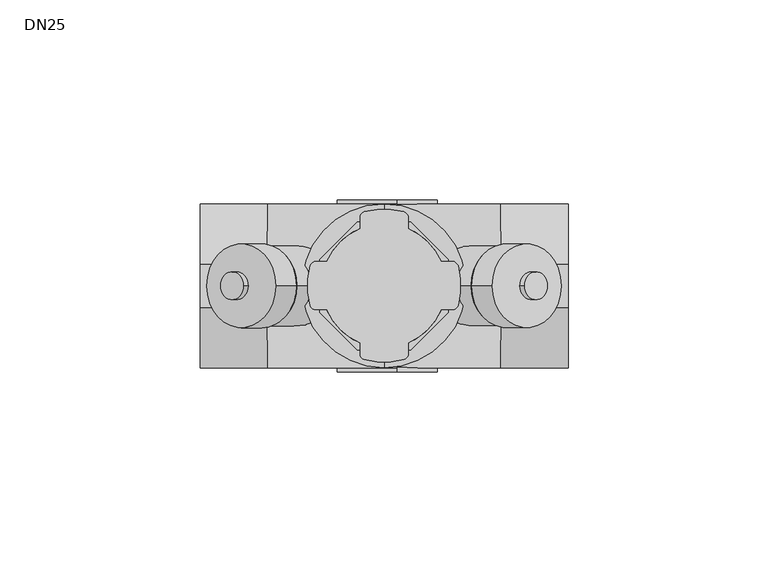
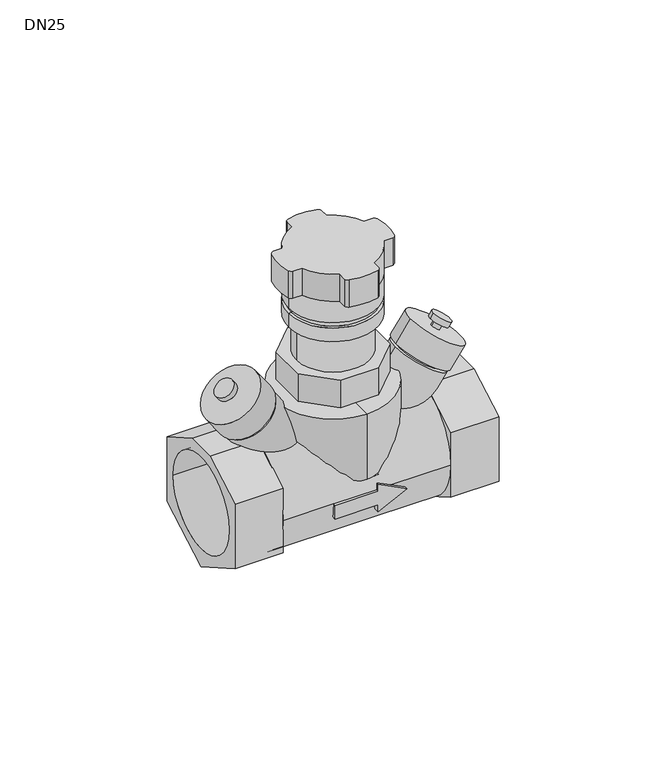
"""IFC4 building model written with IfcOpenShell, lengths in millimetres: valve geometry, 400_56_KOMF_VTZ : DN25."""

from ifc_helpers import new_model, si_unit, point, frame, frame_2d, origin, origin_2d, place, context, project, spatial, polyline, circle_curve, ellipse_curve, trimmed, segment, composite_curve, outline, extrude, source, transform, mapped, element, save
from ifc_brep_helpers import plane_surface, cylinder_surface, revolved_surface, advanced_brep


def dn25_933a6ecd(model_context):
    return source(origin(), model_context, "Body", "SolidModel", [
        advanced_brep(
        [(38.1614142, 0.0, 22.2961177), (21.7784319, 0.0, 33.7676054), (23.4167774, 0.0, 32.6204236), (36.5230687, 0.0, 23.4432996), (26.8246716, 0.0, 6.1055715), (10.4416893, 0.0, 17.5770591), (37.0966531, 0.0, 24.2624631), (23.9903618, 0.0, 33.4395871), (44.3067448, 0.0, 30.2008828), (27.1046544, 0.0, 42.2459162), (34.4768006, 0.0, 37.0838838), (36.9345986, 0.0, 35.3629152), (39.1445527, 0.0, 22.8285084), (21.9424623, 0.0, 34.8735418), (38.0817629, 0.0, 37.0012356), (35.623965, 0.0, 38.7222043), (40.867019, 0.0, 37.4924917), (35.132981, 0.0, 41.5075083), (39.719883, 0.0, 35.8542116), (33.985845, 0.0, 39.8692283)],
        [
            (0, 1, circle_curve(frame((29.969923, 0.0, 28.0318616), z_axis=(0.5735764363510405, 0.0, 0.8191520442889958), x_axis=(-0.8191520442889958, 0.0, 0.5735764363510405)), 9.9999642)),
            (1, 0, circle_curve(frame((29.969923, 0.0, 28.0318616), z_axis=(0.5735764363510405, 0.0, 0.8191520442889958), x_axis=(-0.8191520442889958, 0.0, 0.5735764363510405)), 9.9999642)),
            (2, 3, circle_curve(frame((29.969923, 0.0, 28.0318616), z_axis=(-0.5735764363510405, 0.0, -0.8191520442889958), x_axis=(-0.8191520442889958, 0.0, 0.5735764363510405)), 7.9999137)),
            (3, 2, circle_curve(frame((29.969923, 0.0, 28.0318616), z_axis=(-0.5735764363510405, 0.0, -0.8191520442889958), x_axis=(-0.8191520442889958, 0.0, 0.5735764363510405)), 7.9999137)),
            (4, 5, circle_curve(frame((18.6331805, 0.0, 11.8413153), z_axis=(-0.5735764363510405, 0.0, -0.8191520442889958), x_axis=(-0.8191520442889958, 0.0, 0.5735764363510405)), 9.9999642)),
            (5, 4, circle_curve(frame((18.6331805, 0.0, 11.8413153), z_axis=(-0.5735764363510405, 0.0, -0.8191520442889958), x_axis=(-0.8191520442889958, 0.0, 0.5735764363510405)), 9.9999642)),
            (1, 5),
            (4, 0),
            (6, 7, circle_curve(frame((30.5435075, 0.0, 28.8510251), z_axis=(-0.5735764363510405, 0.0, -0.8191520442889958), x_axis=(-0.8191520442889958, 0.0, 0.5735764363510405)), 7.9999137)),
            (7, 2),
            (3, 6),
            (7, 6, circle_curve(frame((30.5435075, 0.0, 28.8510251), z_axis=(-0.5735764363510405, 0.0, -0.8191520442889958), x_axis=(-0.8191520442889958, 0.0, 0.5735764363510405)), 7.9999137)),
            (8, 9, circle_curve(frame((35.7056996, 0.0, 36.2233995), z_axis=(0.5735764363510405, 0.0, 0.8191520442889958), x_axis=(-0.8191520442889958, 0.0, 0.5735764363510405)), 10.4999374)),
            (9, 8, circle_curve(frame((35.7056996, 0.0, 36.2233995), z_axis=(0.5735764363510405, 0.0, 0.8191520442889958), x_axis=(-0.8191520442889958, 0.0, 0.5735764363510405)), 10.4999374)),
            (10, 11, circle_curve(frame((35.7056996, 0.0, 36.2233995), z_axis=(-0.5735764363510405, 0.0, -0.8191520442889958), x_axis=(-0.8191520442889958, 0.0, 0.5735764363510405)), 1.5002086)),
            (11, 10, circle_curve(frame((35.7056996, 0.0, 36.2233995), z_axis=(-0.5735764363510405, 0.0, -0.8191520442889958), x_axis=(-0.8191520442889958, 0.0, 0.5735764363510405)), 1.5002086)),
            (12, 13, circle_curve(frame((30.5435075, 0.0, 28.8510251), z_axis=(-0.5735764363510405, 0.0, -0.8191520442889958), x_axis=(-0.8191520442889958, 0.0, 0.5735764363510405)), 10.4999374)),
            (13, 12, circle_curve(frame((30.5435075, 0.0, 28.8510251), z_axis=(-0.5735764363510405, 0.0, -0.8191520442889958), x_axis=(-0.8191520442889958, 0.0, 0.5735764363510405)), 10.4999374)),
            (9, 13),
            (12, 8),
            (14, 15, circle_curve(frame((36.852864, 0.0, 37.8617199), z_axis=(-0.5735764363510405, 0.0, -0.8191520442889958), x_axis=(-0.8191520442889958, 0.0, 0.5735764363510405)), 1.5002086)),
            (15, 10),
            (11, 14),
            (15, 14, circle_curve(frame((36.852864, 0.0, 37.8617199), z_axis=(-0.5735764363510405, 0.0, -0.8191520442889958), x_axis=(-0.8191520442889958, 0.0, 0.5735764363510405)), 1.5002086)),
            (16, 17, circle_curve(frame((38.0, 0.0, 39.5), z_axis=(0.5735764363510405, 0.0, 0.8191520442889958), x_axis=(-0.8191520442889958, 0.0, 0.5735764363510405)), 3.4999839)),
            (17, 16, circle_curve(frame((38.0, 0.0, 39.5), z_axis=(0.5735764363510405, 0.0, 0.8191520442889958), x_axis=(-0.8191520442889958, 0.0, 0.5735764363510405)), 3.4999839)),
            (18, 19, circle_curve(frame((36.852864, 0.0, 37.8617199), z_axis=(-0.5735764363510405, 0.0, -0.8191520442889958), x_axis=(-0.8191520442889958, 0.0, 0.5735764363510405)), 3.4999839)),
            (19, 18, circle_curve(frame((36.852864, 0.0, 37.8617199), z_axis=(-0.5735764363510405, 0.0, -0.8191520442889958), x_axis=(-0.8191520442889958, 0.0, 0.5735764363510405)), 3.4999839)),
            (17, 19),
            (18, 16),
        ],
        [
            plane_surface(frame((21.7784319, 0.0, 33.7676054), z_axis=(0.5735764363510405, 0.0, 0.8191520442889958), x_axis=(0.0, 1.0, 0.0))),
            plane_surface(frame((10.4416893, 0.0, 17.5770591), z_axis=(-0.5735764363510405, 0.0, -0.8191520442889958), x_axis=(0.0, -1.0, 0.0))),
            cylinder_surface(frame((18.6331805, 0.0, 11.8413153), z_axis=(0.5735764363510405, 0.0, 0.8191520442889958), x_axis=(-0.8191520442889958, 0.0, 0.5735764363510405)), 9.9999642),
            cylinder_surface(frame((21.939734, 0.0, 16.5635631), z_axis=(0.5735764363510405, 0.0, 0.8191520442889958), x_axis=(-0.8191520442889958, 0.0, 0.5735764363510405)), 7.9999137),
            plane_surface(frame((27.1046544, 0.0, 42.2459162), z_axis=(0.5735764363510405, 0.0, 0.8191520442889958), x_axis=(0.0, 1.0, 0.0))),
            plane_surface(frame((21.9424623, 0.0, 34.8735418), z_axis=(-0.5735764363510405, 0.0, -0.8191520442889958), x_axis=(0.0, -1.0, 0.0))),
            cylinder_surface(frame((30.5435075, 0.0, 28.8510251), z_axis=(0.5735764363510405, 0.0, 0.8191520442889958), x_axis=(-0.8191520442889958, 0.0, 0.5735764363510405)), 10.4999374),
            cylinder_surface(frame((35.7056996, 0.0, 36.2233995), z_axis=(0.5735764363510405, 0.0, 0.8191520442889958), x_axis=(-0.8191520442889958, 0.0, 0.5735764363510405)), 1.5002086),
            plane_surface(frame((35.132981, 0.0, 41.5075083), z_axis=(0.5735764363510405, 0.0, 0.8191520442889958), x_axis=(0.0, 1.0, 0.0))),
            plane_surface(frame((33.985845, 0.0, 39.8692283), z_axis=(-0.5735764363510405, 0.0, -0.8191520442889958), x_axis=(0.0, -1.0, 0.0))),
            cylinder_surface(frame((36.852864, 0.0, 37.8617199), z_axis=(0.5735764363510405, 0.0, 0.8191520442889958), x_axis=(-0.8191520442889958, 0.0, 0.5735764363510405)), 3.4999839),
        ],
        [
            (0, [[1, 2], [3, 4]]),
            (1, [[5, 6]]),
            (2, [[7, -5, 8, -2]]),
            (2, [[-8, -6, -7, -1]]),
            (3, [[9, 10, -4, 11]]),
            (3, [[-3, -10, 12, -11]]),
            (4, [[13, 14], [15, 16]]),
            (5, [[17, 18], [-12, -9]]),
            (6, [[19, -17, 20, -14]]),
            (6, [[-20, -18, -19, -13]]),
            (7, [[21, 22, -16, 23]]),
            (7, [[-15, -22, 24, -23]]),
            (8, [[25, 26]]),
            (9, [[27, 28], [-24, -21]]),
            (10, [[29, -27, 30, -26]]),
            (10, [[-30, -28, -29, -25]]),
        ],
    ),
        advanced_brep(
        [(-38.1614142, 0.0, 22.2961177), (-21.7784319, 0.0, 33.7676054), (-23.4167774, 0.0, 32.6204236), (-36.5230687, 0.0, 23.4432996), (-26.8246716, 0.0, 6.1055715), (-10.4416893, 0.0, 17.5770591), (-37.0966531, 0.0, 24.2624631), (-23.9903618, 0.0, 33.4395871), (-44.3067448, 0.0, 30.2008828), (-27.1046544, 0.0, 42.2459162), (-34.4768006, 0.0, 37.0838838), (-36.9345986, 0.0, 35.3629152), (-39.1445527, 0.0, 22.8285084), (-21.9424623, 0.0, 34.8735418), (-38.0817629, 0.0, 37.0012356), (-35.623965, 0.0, 38.7222043), (-40.867019, 0.0, 37.4924917), (-35.132981, 0.0, 41.5075083), (-39.719883, 0.0, 35.8542116), (-33.985845, 0.0, 39.8692283)],
        [
            (0, 1, circle_curve(frame((-29.969923, 0.0, 28.0318616), z_axis=(-0.5735764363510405, 0.0, 0.8191520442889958), x_axis=(0.8191520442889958, 0.0, 0.5735764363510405)), 9.9999642)),
            (1, 0, circle_curve(frame((-29.969923, 0.0, 28.0318616), z_axis=(-0.5735764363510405, 0.0, 0.8191520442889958), x_axis=(0.8191520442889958, 0.0, 0.5735764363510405)), 9.9999642)),
            (2, 3, circle_curve(frame((-29.969923, 0.0, 28.0318616), z_axis=(0.5735764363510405, 0.0, -0.8191520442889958), x_axis=(0.8191520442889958, 0.0, 0.5735764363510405)), 7.9999137)),
            (3, 2, circle_curve(frame((-29.969923, 0.0, 28.0318616), z_axis=(0.5735764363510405, 0.0, -0.8191520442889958), x_axis=(0.8191520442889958, 0.0, 0.5735764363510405)), 7.9999137)),
            (4, 5, circle_curve(frame((-18.6331805, 0.0, 11.8413153), z_axis=(0.5735764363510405, 0.0, -0.8191520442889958), x_axis=(0.8191520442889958, 0.0, 0.5735764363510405)), 9.9999642)),
            (5, 4, circle_curve(frame((-18.6331805, 0.0, 11.8413153), z_axis=(0.5735764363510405, 0.0, -0.8191520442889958), x_axis=(0.8191520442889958, 0.0, 0.5735764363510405)), 9.9999642)),
            (0, 4),
            (5, 1),
            (6, 3),
            (2, 7),
            (7, 6, circle_curve(frame((-30.5435075, 0.0, 28.8510251), z_axis=(0.5735764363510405, 0.0, -0.8191520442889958), x_axis=(0.8191520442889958, 0.0, 0.5735764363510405)), 7.9999137)),
            (6, 7, circle_curve(frame((-30.5435075, 0.0, 28.8510251), z_axis=(0.5735764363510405, 0.0, -0.8191520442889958), x_axis=(0.8191520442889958, 0.0, 0.5735764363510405)), 7.9999137)),
            (8, 9, circle_curve(frame((-35.7056996, 0.0, 36.2233995), z_axis=(-0.5735764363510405, 0.0, 0.8191520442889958), x_axis=(0.8191520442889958, 0.0, 0.5735764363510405)), 10.4999374)),
            (9, 8, circle_curve(frame((-35.7056996, 0.0, 36.2233995), z_axis=(-0.5735764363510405, 0.0, 0.8191520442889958), x_axis=(0.8191520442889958, 0.0, 0.5735764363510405)), 10.4999374)),
            (10, 11, circle_curve(frame((-35.7056996, 0.0, 36.2233995), z_axis=(0.5735764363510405, 0.0, -0.8191520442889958), x_axis=(0.8191520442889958, 0.0, 0.5735764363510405)), 1.5002086)),
            (11, 10, circle_curve(frame((-35.7056996, 0.0, 36.2233995), z_axis=(0.5735764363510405, 0.0, -0.8191520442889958), x_axis=(0.8191520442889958, 0.0, 0.5735764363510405)), 1.5002086)),
            (12, 13, circle_curve(frame((-30.5435075, 0.0, 28.8510251), z_axis=(0.5735764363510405, 0.0, -0.8191520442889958), x_axis=(0.8191520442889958, 0.0, 0.5735764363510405)), 10.4999374)),
            (13, 12, circle_curve(frame((-30.5435075, 0.0, 28.8510251), z_axis=(0.5735764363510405, 0.0, -0.8191520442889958), x_axis=(0.8191520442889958, 0.0, 0.5735764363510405)), 10.4999374)),
            (8, 12),
            (13, 9),
            (14, 11),
            (10, 15),
            (15, 14, circle_curve(frame((-36.852864, 0.0, 37.8617199), z_axis=(0.5735764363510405, 0.0, -0.8191520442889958), x_axis=(0.8191520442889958, 0.0, 0.5735764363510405)), 1.5002086)),
            (14, 15, circle_curve(frame((-36.852864, 0.0, 37.8617199), z_axis=(0.5735764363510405, 0.0, -0.8191520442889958), x_axis=(0.8191520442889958, 0.0, 0.5735764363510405)), 1.5002086)),
            (16, 17, circle_curve(frame((-38.0, 0.0, 39.5), z_axis=(-0.5735764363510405, 0.0, 0.8191520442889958), x_axis=(0.8191520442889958, 0.0, 0.5735764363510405)), 3.4999839)),
            (17, 16, circle_curve(frame((-38.0, 0.0, 39.5), z_axis=(-0.5735764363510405, 0.0, 0.8191520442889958), x_axis=(0.8191520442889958, 0.0, 0.5735764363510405)), 3.4999839)),
            (18, 19, circle_curve(frame((-36.852864, 0.0, 37.8617199), z_axis=(0.5735764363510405, 0.0, -0.8191520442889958), x_axis=(0.8191520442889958, 0.0, 0.5735764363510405)), 3.4999839)),
            (19, 18, circle_curve(frame((-36.852864, 0.0, 37.8617199), z_axis=(0.5735764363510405, 0.0, -0.8191520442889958), x_axis=(0.8191520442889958, 0.0, 0.5735764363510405)), 3.4999839)),
            (16, 18),
            (19, 17),
        ],
        [
            plane_surface(frame((-21.7784319, 0.0, 33.7676054), z_axis=(-0.5735764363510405, 0.0, 0.8191520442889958), x_axis=(0.0, 1.0, 0.0))),
            plane_surface(frame((-10.4416893, 0.0, 17.5770591), z_axis=(0.5735764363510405, 0.0, -0.8191520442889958), x_axis=(0.0, -1.0, 0.0))),
            cylinder_surface(frame((-18.6331805, 0.0, 11.8413153), z_axis=(-0.5735764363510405, 0.0, 0.8191520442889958), x_axis=(0.8191520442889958, 0.0, 0.5735764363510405)), 9.9999642),
            cylinder_surface(frame((-21.939734, 0.0, 16.5635631), z_axis=(-0.5735764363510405, 0.0, 0.8191520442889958), x_axis=(0.8191520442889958, 0.0, 0.5735764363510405)), 7.9999137),
            plane_surface(frame((-27.1046544, 0.0, 42.2459162), z_axis=(-0.5735764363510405, 0.0, 0.8191520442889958), x_axis=(0.0, 1.0, 0.0))),
            plane_surface(frame((-21.9424623, 0.0, 34.8735418), z_axis=(0.5735764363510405, 0.0, -0.8191520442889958), x_axis=(0.0, -1.0, 0.0))),
            cylinder_surface(frame((-30.5435075, 0.0, 28.8510251), z_axis=(-0.5735764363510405, 0.0, 0.8191520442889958), x_axis=(0.8191520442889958, 0.0, 0.5735764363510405)), 10.4999374),
            cylinder_surface(frame((-35.7056996, 0.0, 36.2233995), z_axis=(-0.5735764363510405, 0.0, 0.8191520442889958), x_axis=(0.8191520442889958, 0.0, 0.5735764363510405)), 1.5002086),
            plane_surface(frame((-35.132981, 0.0, 41.5075083), z_axis=(-0.5735764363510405, 0.0, 0.8191520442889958), x_axis=(0.0, 1.0, 0.0))),
            plane_surface(frame((-33.985845, 0.0, 39.8692283), z_axis=(0.5735764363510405, 0.0, -0.8191520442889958), x_axis=(0.0, -1.0, 0.0))),
            cylinder_surface(frame((-36.852864, 0.0, 37.8617199), z_axis=(-0.5735764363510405, 0.0, 0.8191520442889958), x_axis=(0.8191520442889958, 0.0, 0.5735764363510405)), 3.4999839),
        ],
        [
            (0, [[1, 2], [3, 4]]),
            (1, [[5, 6]]),
            (2, [[-1, 7, -6, 8]]),
            (2, [[-2, -8, -5, -7]]),
            (3, [[9, -3, 10, 11]]),
            (3, [[-9, 12, -10, -4]]),
            (4, [[13, 14], [15, 16]]),
            (5, [[17, 18], [-11, -12]]),
            (6, [[-13, 19, -18, 20]]),
            (6, [[-14, -20, -17, -19]]),
            (7, [[21, -15, 22, 23]]),
            (7, [[-21, 24, -22, -16]]),
            (8, [[25, 26]]),
            (9, [[27, 28], [-23, -24]]),
            (10, [[-25, 29, -28, 30]]),
            (10, [[-26, -30, -27, -29]]),
        ],
    ),
        advanced_brep(
        [(29.2, -20.4999998, -1e-07), (29.2, 20.5000002, -1e-07), (-29.2, -20.4999998, -1e-07), (-29.2, 20.5000002, -1e-07), (8.3504735, -20.4999998, -1e-07), (13.3504733, -20.3469898, -2.5), (3.3504733, -19.0787839, -7.5), (3.3504733, -19.8808952, -5.0), (-11.6495267, -19.8808952, -5.0), (-11.6495267, -20.4999998, -1e-07), (-11.6495267, 20.5000002, -1e-07), (-11.6495267, 19.8808956, -5.0), (3.3504733, 19.8808956, -5.0), (3.3504733, 19.0787843, -7.5), (13.3504733, 20.3469902, -2.5), (8.3504735, 20.5000002, -1e-07), (3.3504733, 20.3469901, 2.5), (3.3504733, 20.5000002, -1e-07), (3.3504733, -20.4999998, 0.0), (3.3504733, -20.3469897, 2.5), (3.3504733, -21.5, 0.0), (-11.6495267, -21.5, 0.0), (-11.6495267, -21.5, -5.0), (3.3504733, -21.5, -5.0), (3.3504733, -21.5, -7.5), (13.3504733, -21.5, -2.5), (3.3504733, -21.5, 2.5), (3.3504733, 21.5, 0.0), (3.3504733, 21.5, 2.5), (13.3504733, 21.5, -2.5), (3.3504733, 21.5, -7.5), (3.3504733, 21.5, -5.0), (-11.6495267, 21.5, -5.0), (-11.6495267, 21.5, 0.0)],
        [
            (0, 1, circle_curve(frame((29.2, 2e-07, -1e-07), z_axis=(1.0, 0.0, 0.0), x_axis=(0.0, 1.0, 0.0)), 20.5)),
            (1, 0, circle_curve(frame((29.2, 2e-07, -1e-07), z_axis=(1.0, 0.0, 0.0), x_axis=(0.0, 1.0, 0.0)), 20.5)),
            (2, 3, circle_curve(frame((-29.2, 2e-07, -1e-07), z_axis=(-1.0, 0.0, 0.0), x_axis=(0.0, 1.0, 0.0)), 20.5)),
            (3, 2, circle_curve(frame((-29.2, 2e-07, -1e-07), z_axis=(-1.0, 0.0, 0.0), x_axis=(0.0, 1.0, 0.0)), 20.5)),
            (0, 4),
            (4, 5, ellipse_curve(frame((8.3504735, 2e-07, -1e-07), z_axis=(0.44721359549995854, 0.0, 0.8944271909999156), x_axis=(0.8944271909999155, 0.0, -0.4472135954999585)), 45.8393935, 20.5)),
            (5, 6, ellipse_curve(frame((18.3504731, 2e-07, -1e-07), z_axis=(0.4472135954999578, 0.0, -0.894427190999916), x_axis=(0.894427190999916, 0.0, 0.44721359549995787)), 45.8393935, 20.5)),
            (6, 7, circle_curve(frame((3.3504733, 2e-07, -1e-07), z_axis=(-1.0, 0.0, 0.0), x_axis=(0.0, 1.0, 0.0)), 20.5)),
            (7, 8),
            (8, 9, circle_curve(frame((-11.6495267, 2e-07, -1e-07), z_axis=(-1.0, 0.0, 0.0), x_axis=(0.0, 1.0, 0.0)), 20.5)),
            (9, 2),
            (3, 10),
            (10, 11, circle_curve(frame((-11.6495267, 2e-07, -1e-07), z_axis=(-1.0, 0.0, 0.0), x_axis=(0.0, 1.0, 0.0)), 20.5)),
            (11, 12),
            (12, 13, circle_curve(frame((3.3504733, 2e-07, -1e-07), z_axis=(-1.0, 0.0, 0.0), x_axis=(0.0, 1.0, 0.0)), 20.5)),
            (13, 14, ellipse_curve(frame((18.3504731, 2e-07, -1e-07), z_axis=(0.4472135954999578, 0.0, -0.894427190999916), x_axis=(0.894427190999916, 0.0, 0.44721359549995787)), 45.8393935, 20.5)),
            (14, 15, ellipse_curve(frame((8.3504735, 2e-07, -1e-07), z_axis=(0.44721359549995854, 0.0, 0.8944271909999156), x_axis=(0.8944271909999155, 0.0, -0.4472135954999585)), 45.8393935, 20.5)),
            (15, 1),
            (15, 16, ellipse_curve(frame((8.3504735, 2e-07, -1e-07), z_axis=(0.44721359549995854, 0.0, 0.8944271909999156), x_axis=(0.8944271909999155, 0.0, -0.4472135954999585)), 45.8393935, 20.5)),
            (16, 17, circle_curve(frame((3.3504733, 2e-07, -1e-07), z_axis=(-1.0, 0.0, 0.0), x_axis=(0.0, 1.0, 0.0)), 20.5)),
            (17, 10),
            (9, 18),
            (18, 19, circle_curve(frame((3.3504733, 2e-07, -1e-07), z_axis=(-1.0, 0.0, 0.0), x_axis=(0.0, 1.0, 0.0)), 20.5)),
            (19, 4, ellipse_curve(frame((8.3504735, 2e-07, -1e-07), z_axis=(0.44721359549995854, 0.0, 0.8944271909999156), x_axis=(0.8944271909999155, 0.0, -0.4472135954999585)), 45.8393935, 20.5)),
            (20, 21),
            (21, 22),
            (22, 23),
            (23, 24),
            (24, 25),
            (25, 26),
            (26, 20),
            (27, 28),
            (28, 29),
            (29, 30),
            (30, 31),
            (31, 32),
            (32, 33),
            (33, 27),
            (20, 18),
            (9, 21),
            (33, 10),
            (17, 27),
            (8, 22),
            (32, 11),
            (7, 23),
            (31, 12),
            (6, 24),
            (30, 13),
            (5, 25),
            (29, 14),
            (19, 26),
            (28, 16),
        ],
        [
            plane_surface(frame((29.2, 20.5000002, -1e-07), z_axis=(1.0, 0.0, 0.0), x_axis=(0.0, 0.0, 1.0))),
            plane_surface(frame((-29.2, 20.5000002, -1e-07), z_axis=(-1.0, 0.0, 0.0), x_axis=(0.0, 0.0, -1.0))),
            cylinder_surface(frame((-29.2, 2e-07, -1e-07), z_axis=(1.0, 0.0, 0.0), x_axis=(0.0, 1.0, 0.0)), 20.5),
            plane_surface(frame((-11.6495267, -21.5, 0.0), z_axis=(0.0, -1.0, 0.0), x_axis=(-1.0, 0.0, 0.0))),
            plane_surface(frame((-11.6495267, 21.5, 0.0), z_axis=(0.0, 1.0, 0.0), x_axis=(1.0, 0.0, 0.0))),
            plane_surface(frame((3.3504733, -21.5, 0.0), z_axis=(0.0, 0.0, 1.0), x_axis=(0.0, 1.0, 0.0))),
            plane_surface(frame((-11.6495267, -21.5, 0.0), z_axis=(-1.0, 0.0, 0.0), x_axis=(0.0, 1.0, 0.0))),
            plane_surface(frame((-11.6495267, -21.5, -5.0), z_axis=(0.0, 0.0, -1.0), x_axis=(0.0, 1.0, 0.0))),
            plane_surface(frame((3.3504733, -21.5, -5.0), z_axis=(-1.0, 0.0, 0.0), x_axis=(0.0, 1.0, 0.0))),
            plane_surface(frame((3.3504733, -21.5, -7.5), z_axis=(0.4472135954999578, 0.0, -0.894427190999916), x_axis=(0.0, 1.0, 0.0))),
            plane_surface(frame((13.3504733, -21.5, -2.5), z_axis=(0.44721359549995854, 0.0, 0.8944271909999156), x_axis=(0.0, 1.0, 0.0))),
            plane_surface(frame((3.3504733, -21.5, 2.5), z_axis=(-1.0, 0.0, 0.0), x_axis=(0.0, 1.0, 0.0))),
        ],
        [
            (0, [[1, 2]]),
            (1, [[3, 4]]),
            (2, [[-1, 5, 6, 7, 8, 9, 10, 11, -4, 12, 13, 14, 15, 16, 17, 18]]),
            (2, [[-2, -18, 19, 20, 21, -12, -3, -11, 22, 23, 24, -5]]),
            (3, [[25, 26, 27, 28, 29, 30, 31]]),
            (4, [[32, 33, 34, 35, 36, 37, 38]]),
            (5, [[-25, 39, -22, 40]]),
            (5, [[-38, 41, -21, 42]]),
            (6, [[-26, -40, -10, 43]]),
            (6, [[-37, 44, -13, -41]]),
            (7, [[-27, -43, -9, 45]]),
            (7, [[-36, 46, -14, -44]]),
            (8, [[-28, -45, -8, 47]]),
            (8, [[-35, 48, -15, -46]]),
            (9, [[-29, -47, -7, 49]]),
            (9, [[-34, 50, -16, -48]]),
            (10, [[-30, -49, -6, -24, 51]]),
            (10, [[-33, 52, -19, -17, -50]]),
            (11, [[-31, -51, -23, -39]]),
            (11, [[-32, -42, -20, -52]]),
        ],
    ),
        extrude(outline(polyline([(20.5, 11.83568), (20.5, -11.8356805), (-4e-07, -23.6713613), (-20.5, -11.835681), (-20.5, 11.8356805), (-5.4929584, 20.5), (5.4929576, 20.5), (20.5, 11.83568)]), holes=[composite_curve([segment(trimmed(circle_curve(origin_2d(), 16.85), [point((-16.85, 0.0))], [point((16.85, 0.0))], True, "CARTESIAN"), True, "CONTINUOUS"), segment(trimmed(circle_curve(origin_2d(), 16.85), [point((16.85, 0.0))], [point((-16.85, 0.0))], True, "CARTESIAN"), True, "CONTINUOUS")], self_intersect=False)]), frame((29.2, 0.0, 0.0), z_axis=(1.0, 0.0, 0.0), x_axis=(0.0, 1.0, 0.0)), (0.0, 0.0, 1.0), 16.8),
        extrude(outline(polyline([(20.5, 11.83568), (20.5, -11.8356805), (-4e-07, -23.6713613), (-20.5, -11.835681), (-20.5, 11.8356805), (-5.4929584, 20.5), (5.4929576, 20.5), (20.5, 11.83568)]), holes=[composite_curve([segment(trimmed(circle_curve(origin_2d(), 16.85), [point((-16.85, 0.0))], [point((16.85, 0.0))], True, "CARTESIAN"), True, "CONTINUOUS"), segment(trimmed(circle_curve(origin_2d(), 16.85), [point((16.85, 0.0))], [point((-16.85, 0.0))], True, "CARTESIAN"), True, "CONTINUOUS")], self_intersect=False)]), frame((-46.0, 0.0, 0.0), z_axis=(1.0, 0.0, 0.0), x_axis=(0.0, 1.0, 0.0)), (0.0, 0.0, 1.0), 16.8),
        advanced_brep(
        [(0.0, -20.5, 29.0), (0.0, 20.5, 29.0), (0.0, 20.5, 5.0000003), (0.0, -20.5, 5.0000003), (0.0, -12.0000003, 29.0), (0.0, 12.0000003, 29.0), (0.0, -12.0000003, 37.0), (0.0, 12.0000003, 37.0), (0.0, 0.0, 37.0), (0.0, -17.5000003, 2.0), (0.0, 17.5000003, 2.0), (0.0, 0.0, 2.0)],
        [
            (0, 1, circle_curve(frame((0.0, 0.0, 29.0), z_axis=(0.0, 0.0, -1.0), x_axis=(0.0, 1.0, 0.0)), 20.5)),
            (1, 2),
            (2, 3, circle_curve(frame((0.0, 0.0, 5.0000003), z_axis=(0.0, 0.0, 1.0), x_axis=(0.0, 1.0, 0.0)), 20.5)),
            (3, 0),
            (1, 0, circle_curve(frame((0.0, 0.0, 29.0), z_axis=(0.0, 0.0, -1.0), x_axis=(0.0, 1.0, 0.0)), 20.5)),
            (3, 2, circle_curve(frame((0.0, 0.0, 5.0000003), z_axis=(0.0, 0.0, 1.0), x_axis=(0.0, 1.0, 0.0)), 20.5)),
            (4, 5, circle_curve(frame((0.0, 0.0, 29.0), z_axis=(0.0, 0.0, -1.0), x_axis=(0.0, 1.0, 0.0)), 12.0000003)),
            (5, 1),
            (0, 4),
            (5, 4, circle_curve(frame((0.0, 0.0, 29.0), z_axis=(0.0, 0.0, -1.0), x_axis=(0.0, 1.0, 0.0)), 12.0000003)),
            (6, 7, circle_curve(frame((0.0, 0.0, 37.0), z_axis=(0.0, 0.0, -1.0), x_axis=(0.0, 1.0, 0.0)), 12.0000003)),
            (7, 5),
            (4, 6),
            (7, 6, circle_curve(frame((0.0, 0.0, 37.0), z_axis=(0.0, 0.0, -1.0), x_axis=(0.0, 1.0, 0.0)), 12.0000003)),
            (8, 7),
            (6, 8),
            (9, 10, circle_curve(frame((0.0, 0.0, 2.0), z_axis=(0.0, 0.0, -1.0), x_axis=(0.0, 1.0, 0.0)), 17.5000003)),
            (10, 11),
            (11, 9),
            (10, 9, circle_curve(frame((0.0, 0.0, 2.0), z_axis=(0.0, 0.0, -1.0), x_axis=(0.0, 1.0, 0.0)), 17.5000003)),
            (2, 10),
            (9, 3),
        ],
        [
            cylinder_surface(frame((0.0, 0.0, 1440.3704342), z_axis=(0.0, 0.0, 1.0), x_axis=(0.0, 1.0, 0.0)), 20.5),
            plane_surface(frame((0.0, 0.0, 29.0), z_axis=(0.0, 0.0, 1.0), x_axis=(0.0, 1.0, 0.0))),
            cylinder_surface(frame((0.0, 0.0, 1440.3704342), z_axis=(0.0, 0.0, 1.0), x_axis=(0.0, 1.0, 0.0)), 12.0000003),
            plane_surface(frame((0.0, 0.0, 37.0), z_axis=(0.0, 0.0, 1.0), x_axis=(0.0, 1.0, 0.0))),
            plane_surface(frame((0.0, 0.0, 2.0), z_axis=(0.0, 0.0, -1.0), x_axis=(0.0, 1.0, 0.0))),
            revolved_surface(polyline([(0.0, 17.5000003, 2.0), (0.0, 20.5, 5.0000003)]), (0.0, 0.0, 1440.3704342), (0.0, 0.0, 1.0)),
        ],
        [
            (0, [[1, 2, 3, 4]]),
            (0, [[5, -4, 6, -2]]),
            (1, [[7, 8, -1, 9]]),
            (1, [[10, -9, -5, -8]]),
            (2, [[11, 12, -7, 13]]),
            (2, [[14, -13, -10, -12]]),
            (3, [[15, -11, 16]]),
            (3, [[-16, -14, -15]]),
            (4, [[17, 18, 19]]),
            (4, [[20, -19, -18]]),
            (5, [[-3, 21, -17, 22]]),
            (5, [[-6, -22, -20, -21]]),
        ],
    ),
        extrude(outline(composite_curve([segment(polyline([(-5.999999, 14.2916074), (-5.999999, 17.5000013)]), True, "CONTINUOUS"), segment(trimmed(circle_curve(frame_2d((-4.3362017, 16.836203)), 1.7913262), [point((-5.999999, 17.5000013))], [point((-5.0, 18.5000003))], False, "CARTESIAN"), True, "CONTINUOUS"), segment(trimmed(circle_curve(frame_2d((0.0, -1.7021075)), 20.8116592), [point((-5.0, 18.5000003))], [point((5.0, 18.5000003))], False, "CARTESIAN"), True, "CONTINUOUS"), segment(trimmed(circle_curve(frame_2d((4.177133, 16.6771324)), 1.9999894), [point((5.0, 18.5000003))], [point((6.000001, 17.4999994))], False, "CARTESIAN"), True, "CONTINUOUS"), segment(polyline([(6.000001, 17.4999994), (6.000001, 14.2916074)]), True, "CONTINUOUS"), segment(trimmed(circle_curve(frame_2d((1e-06, 1e-06)), 15.5000005), [point((6.000001, 14.2916074))], [point((14.2916074, 6.000001))], False, "CARTESIAN"), True, "CONTINUOUS"), segment(polyline([(14.2916074, 6.000001), (17.5, 6.000001)]), True, "CONTINUOUS"), segment(trimmed(circle_curve(frame_2d((16.6771331, 4.177133)), 1.9999894), [point((17.5, 6.000001))], [point((18.500001, 5.0))], False, "CARTESIAN"), True, "CONTINUOUS"), segment(trimmed(circle_curve(frame_2d((-1.7021075, 0.0)), 20.8116599), [point((18.500001, 5.0))], [point((18.500001, -5.0))], False, "CARTESIAN"), True, "CONTINUOUS"), segment(trimmed(circle_curve(frame_2d((16.8362037, -4.3362017)), 1.7913262), [point((18.500001, -5.0))], [point((17.500002, -5.999999))], False, "CARTESIAN"), True, "CONTINUOUS"), segment(polyline([(17.500002, -5.999999), (14.2916074, -5.999999)]), True, "CONTINUOUS"), segment(trimmed(circle_curve(frame_2d((1e-06, 1e-06)), 15.5000005), [point((14.2916074, -5.999999))], [point((6.000001, -14.2916054))], False, "CARTESIAN"), True, "CONTINUOUS"), segment(polyline([(6.000001, -14.2916054), (6.000001, -17.4999974)]), True, "CONTINUOUS"), segment(trimmed(circle_curve(frame_2d((4.177133, -16.6771304)), 1.9999894), [point((6.000001, -17.4999974))], [point((5.0, -18.4999984))], False, "CARTESIAN"), True, "CONTINUOUS"), segment(trimmed(circle_curve(frame_2d((0.0, 1.7021094)), 20.8116592), [point((5.0, -18.4999984))], [point((-5.0, -18.4999984))], False, "CARTESIAN"), True, "CONTINUOUS"), segment(trimmed(circle_curve(frame_2d((-4.3362017, -16.8362011)), 1.7913262), [point((-5.0, -18.4999984))], [point((-5.999999, -17.4999994))], False, "CARTESIAN"), True, "CONTINUOUS"), segment(polyline([(-5.999999, -17.4999994), (-5.999999, -14.2916054)]), True, "CONTINUOUS"), segment(trimmed(circle_curve(frame_2d((1e-06, 1e-06)), 15.5000005), [point((-5.999999, -14.2916054))], [point((-14.2916054, -5.999999))], False, "CARTESIAN"), True, "CONTINUOUS"), segment(polyline([(-14.2916054, -5.999999), (-17.5, -5.999999)]), True, "CONTINUOUS"), segment(trimmed(circle_curve(frame_2d((-16.8362017, -4.3362017)), 1.7913262), [point((-17.5, -5.999999))], [point((-18.499999, -5.0))], False, "CARTESIAN"), True, "CONTINUOUS"), segment(trimmed(circle_curve(frame_2d((1.7021094, 0.0)), 20.8116599), [point((-18.499999, -5.0))], [point((-18.499999, 5.0))], False, "CARTESIAN"), True, "CONTINUOUS"), segment(trimmed(circle_curve(frame_2d((-16.6771311, 4.177133)), 1.9999894), [point((-18.499999, 5.0))], [point((-17.4999981, 6.000001))], False, "CARTESIAN"), True, "CONTINUOUS"), segment(polyline([(-17.4999981, 6.000001), (-14.2916054, 6.000001)]), True, "CONTINUOUS"), segment(trimmed(circle_curve(frame_2d((1e-06, 1e-06)), 15.5000005), [point((-14.2916054, 6.000001))], [point((-5.999999, 14.2916074))], False, "CARTESIAN"), True, "CONTINUOUS")], self_intersect=False)), frame((0.0, 0.0, 68.9999993), z_axis=(0.0, 0.0, 1.0), x_axis=(1.0, 0.0, 0.0)), (0.0, 0.0, 1.0), 10.0000028),
        advanced_brep(
        [(15.5000005, 0.0, 61.1249976), (-15.5000005, 0.0, 61.1249976), (-15.5000005, 0.0, 68.9999993), (15.5000005, 0.0, 68.9999993), (14.4686689, 0.0, 61.1249976), (-14.4686689, 0.0, 61.1249976), (14.4686689, 0.0, 59.1250016), (-14.4686689, 0.0, 59.1250016), (15.5000005, 0.0, 59.1250016), (-15.5000005, 0.0, 59.1250016), (15.5000005, 0.0, 54.1401), (-15.5000005, 0.0, 54.1401), (12.7500002, 0.0, 54.1401), (-12.7500002, 0.0, 54.1401), (12.7500002, 0.0, 41.0000005), (-12.7500002, 0.0, 41.0000005), (0.0, 0.0, 41.0000005), (0.0, 0.0, 68.9999993)],
        [
            (0, 1, circle_curve(frame((0.0, 0.0, 61.1249976), z_axis=(0.0, 0.0, 1.0), x_axis=(-1.0, 0.0, 0.0)), 15.5000005)),
            (1, 2),
            (2, 3, circle_curve(frame((0.0, 0.0, 68.9999993), z_axis=(0.0, 0.0, -1.0), x_axis=(-1.0, 0.0, 0.0)), 15.5000005)),
            (3, 0),
            (1, 0, circle_curve(frame((0.0, 0.0, 61.1249976), z_axis=(0.0, 0.0, 1.0), x_axis=(-1.0, 0.0, 0.0)), 15.5000005)),
            (3, 2, circle_curve(frame((0.0, 0.0, 68.9999993), z_axis=(0.0, 0.0, -1.0), x_axis=(-1.0, 0.0, 0.0)), 15.5000005)),
            (4, 5, circle_curve(frame((0.0, 0.0, 61.1249976), z_axis=(0.0, 0.0, 1.0), x_axis=(-1.0, 0.0, 0.0)), 14.4686689)),
            (5, 1),
            (0, 4),
            (5, 4, circle_curve(frame((0.0, 0.0, 61.1249976), z_axis=(0.0, 0.0, 1.0), x_axis=(-1.0, 0.0, 0.0)), 14.4686689)),
            (6, 7, circle_curve(frame((0.0, 0.0, 59.1250016), z_axis=(0.0, 0.0, 1.0), x_axis=(-1.0, 0.0, 0.0)), 14.4686689)),
            (7, 5),
            (4, 6),
            (7, 6, circle_curve(frame((0.0, 0.0, 59.1250016), z_axis=(0.0, 0.0, 1.0), x_axis=(-1.0, 0.0, 0.0)), 14.4686689)),
            (8, 9, circle_curve(frame((0.0, 0.0, 59.1250016), z_axis=(0.0, 0.0, 1.0), x_axis=(-1.0, 0.0, 0.0)), 15.5000005)),
            (9, 7),
            (6, 8),
            (9, 8, circle_curve(frame((0.0, 0.0, 59.1250016), z_axis=(0.0, 0.0, 1.0), x_axis=(-1.0, 0.0, 0.0)), 15.5000005)),
            (10, 11, circle_curve(frame((0.0, 0.0, 54.1401), z_axis=(0.0, 0.0, 1.0), x_axis=(-1.0, 0.0, 0.0)), 15.5000005)),
            (11, 9),
            (8, 10),
            (11, 10, circle_curve(frame((0.0, 0.0, 54.1401), z_axis=(0.0, 0.0, 1.0), x_axis=(-1.0, 0.0, 0.0)), 15.5000005)),
            (12, 13, circle_curve(frame((0.0, 0.0, 54.1401), z_axis=(0.0, 0.0, 1.0), x_axis=(-1.0, 0.0, 0.0)), 12.7500002)),
            (13, 11),
            (10, 12),
            (13, 12, circle_curve(frame((0.0, 0.0, 54.1401), z_axis=(0.0, 0.0, 1.0), x_axis=(-1.0, 0.0, 0.0)), 12.7500002)),
            (14, 15, circle_curve(frame((0.0, 0.0, 41.0000005), z_axis=(0.0, 0.0, 1.0), x_axis=(-1.0, 0.0, 0.0)), 12.7500002)),
            (15, 13),
            (12, 14),
            (15, 14, circle_curve(frame((0.0, 0.0, 41.0000005), z_axis=(0.0, 0.0, 1.0), x_axis=(-1.0, 0.0, 0.0)), 12.7500002)),
            (16, 15),
            (14, 16),
            (2, 17),
            (17, 3),
        ],
        [
            cylinder_surface(frame((0.0, 0.0, 39.1250005), z_axis=(0.0, 0.0, -1.0), x_axis=(-1.0, 0.0, 0.0)), 15.5000005),
            plane_surface(frame((0.0, 0.0, 61.1249976), z_axis=(0.0, 0.0, -1.0), x_axis=(-1.0, 0.0, 0.0))),
            cylinder_surface(frame((0.0, 0.0, 39.1250005), z_axis=(0.0, 0.0, -1.0), x_axis=(-1.0, 0.0, 0.0)), 14.4686689),
            plane_surface(frame((0.0, 0.0, 59.1250016), z_axis=(0.0, 0.0, 1.0), x_axis=(-1.0, 0.0, 0.0))),
            plane_surface(frame((0.0, 0.0, 54.1401), z_axis=(0.0, 0.0, -1.0), x_axis=(-1.0, 0.0, 0.0))),
            cylinder_surface(frame((0.0, 0.0, 39.1250005), z_axis=(0.0, 0.0, -1.0), x_axis=(-1.0, 0.0, 0.0)), 12.7500002),
            plane_surface(frame((0.0, 0.0, 41.0000005), z_axis=(0.0, 0.0, -1.0), x_axis=(-1.0, 0.0, 0.0))),
            plane_surface(frame((0.0, 0.0, 68.9999993), z_axis=(0.0, 0.0, 1.0), x_axis=(-1.0, 0.0, 0.0))),
        ],
        [
            (0, [[1, 2, 3, 4]]),
            (0, [[5, -4, 6, -2]]),
            (1, [[7, 8, -1, 9]]),
            (1, [[10, -9, -5, -8]]),
            (2, [[11, 12, -7, 13]]),
            (2, [[14, -13, -10, -12]]),
            (3, [[15, 16, -11, 17]]),
            (3, [[18, -17, -14, -16]]),
            (0, [[19, 20, -15, 21]]),
            (0, [[22, -21, -18, -20]]),
            (4, [[23, 24, -19, 25]]),
            (4, [[26, -25, -22, -24]]),
            (5, [[27, 28, -23, 29]]),
            (5, [[30, -29, -26, -28]]),
            (6, [[31, -27, 32]]),
            (6, [[-32, -30, -31]]),
            (7, [[-3, 33, 34]]),
            (7, [[-6, -34, -33]]),
        ],
    ),
        extrude(outline(polyline([(16.0000006, 6.6274173), (16.0000006, -6.6274173), (6.6274173, -15.9999999), (-6.6274173, -15.9999999), (-16.0000006, -6.6274173), (-16.0000006, 6.6274173), (-6.6274173, 15.9999999), (6.6274173, 15.9999999), (16.0000006, 6.6274173)])), frame((0.0, 0.0, 31.0), z_axis=(0.0, 0.0, 1.0), x_axis=(1.0, 0.0, 0.0)), (0.0, 0.0, 1.0), 10.0000005),
    ])


if __name__ == "__main__":
    model = new_model("IFC4")
    model_context = context("Model", 3, world=origin())
    ifc_project = project(units=[si_unit("LENGTHUNIT", "METRE", prefix="MILLI")], contexts=[model_context])
    site = spatial("IfcSite", under=ifc_project)
    building = spatial("IfcBuilding", under=site)
    placement = place(None, origin())
    dn25_shape = dn25_933a6ecd(model_context)
    element("IfcValve", 1, ObjectType="400_56_KOMF_VTZ : DN25", at=placement, inside=building, context=model_context, shape_type="MappedRepresentation", body=[
        mapped(dn25_shape, transform((0.0, 0.0, 0.0), x_axis=(1.0, 0.0, 0.0), y_axis=(0.0, 1.0, 0.0), z_axis=(0.0, 0.0, 1.0))),
    ])
    save(model, "model.ifc")
